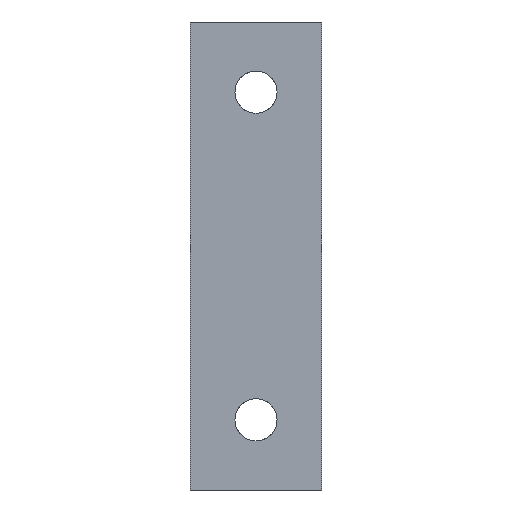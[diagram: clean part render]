
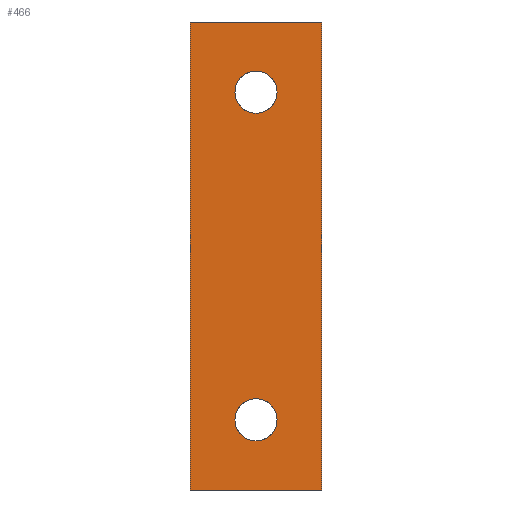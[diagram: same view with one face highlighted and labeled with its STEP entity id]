
A CAD part, front view. The second image highlights one B-rep face of the part: STEP entity #466.
In plain terms, the highlighted face is a extrusion surface.
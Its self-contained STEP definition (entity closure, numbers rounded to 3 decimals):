
#355=CARTESIAN_POINT('Control Point',(-28.,0.,0.)) ;
#356=CARTESIAN_POINT('Control Point',(-28.,0.,-100.)) ;
#360=CARTESIAN_POINT('Line Origine',(-14.,0.,-100.)) ;
#364=CARTESIAN_POINT('Vertex',(-28.,0.,-100.)) ;
#366=CARTESIAN_POINT('Vertex',(0.,0.,-100.)) ;
#369=CARTESIAN_POINT('Line Origine',(0.,0.,-50.)) ;
#373=CARTESIAN_POINT('Vertex',(0.,0.,0.)) ;
#376=CARTESIAN_POINT('Line Origine',(-14.,0.,0.)) ;
#380=CARTESIAN_POINT('Vertex',(-28.,0.,0.)) ;
#383=CARTESIAN_POINT('Line Origine',(-28.,0.,-50.)) ;
#395=CARTESIAN_POINT('Control Point',(-9.5,0.,-85.)) ;
#396=CARTESIAN_POINT('Control Point',(-9.5,0.,-86.247)) ;
#397=CARTESIAN_POINT('Control Point',(-9.932,0.,-87.494)) ;
#398=CARTESIAN_POINT('Control Point',(-10.8,0.,-88.539)) ;
#399=CARTESIAN_POINT('Control Point',(-12.71,0.,-89.63)) ;
#400=CARTESIAN_POINT('Control Point',(-14.841,0.,-89.54)) ;
#401=CARTESIAN_POINT('Control Point',(-15.671,0.,-89.305)) ;
#402=CARTESIAN_POINT('Control Point',(-17.085,0.,-88.511)) ;
#403=CARTESIAN_POINT('Control Point',(-18.032,0.,-87.204)) ;
#404=CARTESIAN_POINT('Control Point',(-18.344,0.,-86.498)) ;
#405=CARTESIAN_POINT('Control Point',(-18.5,0.,-85.749)) ;
#406=CARTESIAN_POINT('Control Point',(-18.5,0.,-85.)) ;
#407=CARTESIAN_POINT('Vertex',(-9.5,0.,-85.)) ;
#409=CARTESIAN_POINT('Vertex',(-18.5,0.,-85.)) ;
#413=CARTESIAN_POINT('Control Point',(-18.5,0.,-85.)) ;
#414=CARTESIAN_POINT('Control Point',(-18.5,0.,-83.753)) ;
#415=CARTESIAN_POINT('Control Point',(-18.068,0.,-82.506)) ;
#416=CARTESIAN_POINT('Control Point',(-17.2,0.,-81.461)) ;
#417=CARTESIAN_POINT('Control Point',(-15.29,0.,-80.37)) ;
#418=CARTESIAN_POINT('Control Point',(-13.159,0.,-80.46)) ;
#419=CARTESIAN_POINT('Control Point',(-12.329,0.,-80.695)) ;
#420=CARTESIAN_POINT('Control Point',(-10.915,0.,-81.489)) ;
#421=CARTESIAN_POINT('Control Point',(-9.968,0.,-82.796)) ;
#422=CARTESIAN_POINT('Control Point',(-9.656,0.,-83.502)) ;
#423=CARTESIAN_POINT('Control Point',(-9.5,0.,-84.251)) ;
#424=CARTESIAN_POINT('Control Point',(-9.5,0.,-85.)) ;
#431=CARTESIAN_POINT('Control Point',(-9.5,0.,-15.)) ;
#432=CARTESIAN_POINT('Control Point',(-9.5,0.,-16.247)) ;
#433=CARTESIAN_POINT('Control Point',(-9.932,0.,-17.494)) ;
#434=CARTESIAN_POINT('Control Point',(-10.8,0.,-18.539)) ;
#435=CARTESIAN_POINT('Control Point',(-12.71,0.,-19.63)) ;
#436=CARTESIAN_POINT('Control Point',(-14.841,0.,-19.54)) ;
#437=CARTESIAN_POINT('Control Point',(-15.671,0.,-19.305)) ;
#438=CARTESIAN_POINT('Control Point',(-17.085,0.,-18.511)) ;
#439=CARTESIAN_POINT('Control Point',(-18.032,0.,-17.204)) ;
#440=CARTESIAN_POINT('Control Point',(-18.344,0.,-16.498)) ;
#441=CARTESIAN_POINT('Control Point',(-18.5,0.,-15.749)) ;
#442=CARTESIAN_POINT('Control Point',(-18.5,0.,-15.)) ;
#443=CARTESIAN_POINT('Vertex',(-9.5,0.,-15.)) ;
#445=CARTESIAN_POINT('Vertex',(-18.5,0.,-15.)) ;
#449=CARTESIAN_POINT('Control Point',(-18.5,0.,-15.)) ;
#450=CARTESIAN_POINT('Control Point',(-18.5,0.,-13.753)) ;
#451=CARTESIAN_POINT('Control Point',(-18.068,0.,-12.506)) ;
#452=CARTESIAN_POINT('Control Point',(-17.2,0.,-11.461)) ;
#453=CARTESIAN_POINT('Control Point',(-15.29,0.,-10.37)) ;
#454=CARTESIAN_POINT('Control Point',(-13.159,0.,-10.46)) ;
#455=CARTESIAN_POINT('Control Point',(-12.329,0.,-10.695)) ;
#456=CARTESIAN_POINT('Control Point',(-10.915,0.,-11.489)) ;
#457=CARTESIAN_POINT('Control Point',(-9.968,0.,-12.796)) ;
#458=CARTESIAN_POINT('Control Point',(-9.656,0.,-13.502)) ;
#459=CARTESIAN_POINT('Control Point',(-9.5,0.,-14.251)) ;
#460=CARTESIAN_POINT('Control Point',(-9.5,0.,-15.)) ;
#357=DIRECTION('Vector Direction',(1.,0.,0.)) ;
#361=DIRECTION('Vector Direction',(1.,0.,0.)) ;
#370=DIRECTION('Vector Direction',(0.,0.,-1.)) ;
#377=DIRECTION('Vector Direction',(1.,0.,0.)) ;
#384=DIRECTION('Vector Direction',(0.,0.,-1.)) ;
#389=ORIENTED_EDGE('',*,*,#368,.T.) ;
#390=ORIENTED_EDGE('',*,*,#375,.T.) ;
#391=ORIENTED_EDGE('',*,*,#382,.T.) ;
#392=ORIENTED_EDGE('',*,*,#387,.T.) ;
#427=ORIENTED_EDGE('',*,*,#411,.T.) ;
#428=ORIENTED_EDGE('',*,*,#425,.T.) ;
#463=ORIENTED_EDGE('',*,*,#447,.T.) ;
#464=ORIENTED_EDGE('',*,*,#461,.T.) ;
#429=FACE_BOUND('',#426,.T.) ;
#465=FACE_BOUND('',#462,.T.) ;
#358=VECTOR('Extrusion Surface Vector',#357,1.) ;
#362=VECTOR('Line Direction',#361,1.) ;
#371=VECTOR('Line Direction',#370,1.) ;
#378=VECTOR('Line Direction',#377,1.) ;
#385=VECTOR('Line Direction',#384,1.) ;
#466=ADVANCED_FACE('Superficie.6',(#393,#429,#465),#359,.T.) ;
#354=B_SPLINE_CURVE_WITH_KNOTS('',1,(#355,#356),.UNSPECIFIED.,.F.,.U.,(2,2),(-50.,50.),.UNSPECIFIED.) ;
#394=B_SPLINE_CURVE_WITH_KNOTS('',5,(#395,#396,#397,#398,#399,#400,#401,#402,#403,#404,#405,#406),.UNSPECIFIED.,.F.,.U.,(6,3,3,6),(0.,8.818,14.697,19.993),.UNSPECIFIED.) ;
#412=B_SPLINE_CURVE_WITH_KNOTS('',5,(#413,#414,#415,#416,#417,#418,#419,#420,#421,#422,#423,#424),.UNSPECIFIED.,.F.,.U.,(6,3,3,6),(0.,8.818,14.697,19.993),.UNSPECIFIED.) ;
#430=B_SPLINE_CURVE_WITH_KNOTS('',5,(#431,#432,#433,#434,#435,#436,#437,#438,#439,#440,#441,#442),.UNSPECIFIED.,.F.,.U.,(6,3,3,6),(0.,8.818,14.697,19.993),.UNSPECIFIED.) ;
#448=B_SPLINE_CURVE_WITH_KNOTS('',5,(#449,#450,#451,#452,#453,#454,#455,#456,#457,#458,#459,#460),.UNSPECIFIED.,.F.,.U.,(6,3,3,6),(0.,8.818,14.697,19.993),.UNSPECIFIED.) ;
#368=EDGE_CURVE('',#365,#367,#363,.T.) ;
#375=EDGE_CURVE('',#367,#374,#372,.F.) ;
#382=EDGE_CURVE('',#374,#381,#379,.F.) ;
#387=EDGE_CURVE('',#381,#365,#386,.T.) ;
#411=EDGE_CURVE('',#408,#410,#394,.T.) ;
#425=EDGE_CURVE('',#410,#408,#412,.T.) ;
#447=EDGE_CURVE('',#444,#446,#430,.T.) ;
#461=EDGE_CURVE('',#446,#444,#448,.T.) ;
#388=EDGE_LOOP('',(#389,#390,#391,#392)) ;
#426=EDGE_LOOP('',(#427,#428)) ;
#462=EDGE_LOOP('',(#463,#464)) ;
#393=FACE_OUTER_BOUND('',#388,.T.) ;
#363=LINE('Line',#360,#362) ;
#372=LINE('Line',#369,#371) ;
#379=LINE('Line',#376,#378) ;
#386=LINE('Line',#383,#385) ;
#359=SURFACE_OF_LINEAR_EXTRUSION('generated tabulated cylinder',#354,#358) ;
#365=VERTEX_POINT('',#364) ;
#367=VERTEX_POINT('',#366) ;
#374=VERTEX_POINT('',#373) ;
#381=VERTEX_POINT('',#380) ;
#408=VERTEX_POINT('',#407) ;
#410=VERTEX_POINT('',#409) ;
#444=VERTEX_POINT('',#443) ;
#446=VERTEX_POINT('',#445) ;
